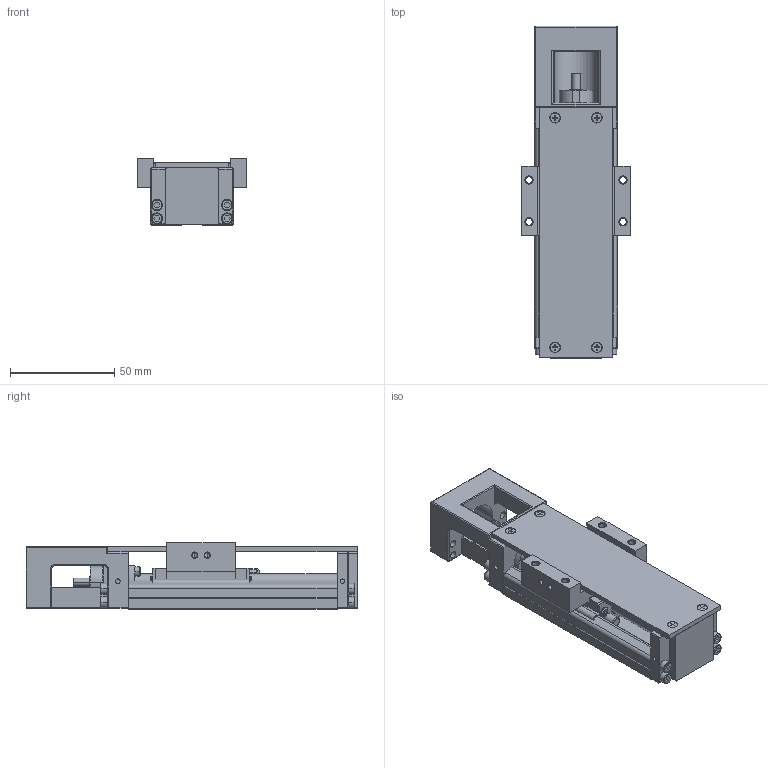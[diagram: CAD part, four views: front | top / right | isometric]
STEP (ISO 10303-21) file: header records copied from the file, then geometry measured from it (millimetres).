
FILE_DESCRIPTION(('no description'),'unknown implementation level');
FILE_NAME('KK4001P100A1F0C00_FILE_4.stp',' ',('HIWIN GmbH'),('CADClick - KiM GmbH - www.kimweb.de'),'unknown preprocess','ACIS','unknown authorization');
FILE_SCHEMA(('automotive_design'));
Length unit declared in the file: millimetre
Products named in the file (2): KK40_FILE; KK4001P100A1F0C00_FILE
Bounding box: 52 x 159 x 32 mm (x, y, z)
Volume: 112893.9 mm3; surface area: 53058.2 mm2
Topology: 2 solids, 18 shells, 979 faces, 2535 edges, 1608 vertices
Faces by surface type: plane 557, cylinder 314, cone 56, torus 46, sphere 6
Entity records: 59454 total; most frequent: CARTESIAN_POINT 6468, DIRECTION 5192, STYLED_ITEM 5112, PRESENTATION_STYLE_ASSIGNMENT 5112, COLOUR_RGB 5112, ORIENTED_EDGE 5046, EDGE_CURVE 2523, CURVE_STYLE 2523
